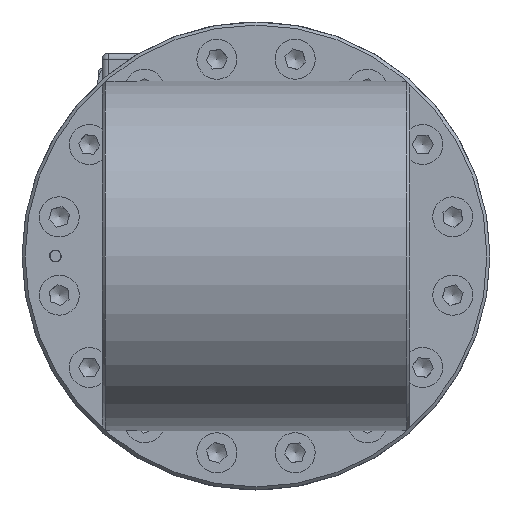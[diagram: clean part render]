
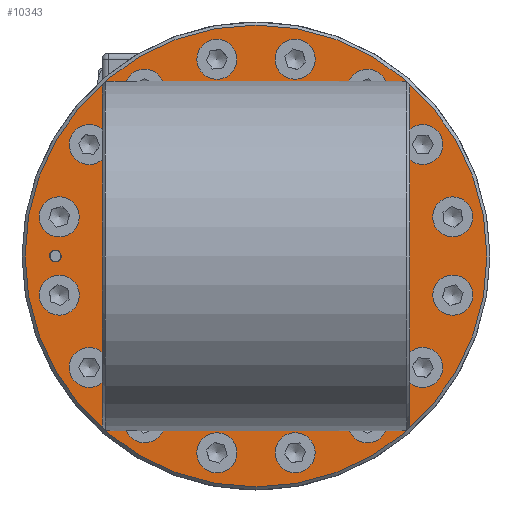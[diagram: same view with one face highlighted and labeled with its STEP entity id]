
A CAD part, left-side view. The second image highlights one B-rep face of the part: STEP entity #10343.
In plain terms, the highlighted planar face has unit normal (-1, 0, 0) as drawn and (1, 0, 0) by its records, which use the part's own axes.
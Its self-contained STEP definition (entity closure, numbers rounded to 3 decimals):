
#10343=ADVANCED_FACE('',(#11835,#11836,#11837,#11838,#11839,#11840,#11841,
#11842,#11843,#11844,#11845,#11846,#11847,#11848,#11849,#11850,#11851,#11852,
#11853),#11150,.T.);
#11150=PLANE('',#25147);
#11835=FACE_BOUND('',#13525,.T.);
#11836=FACE_BOUND('',#13526,.T.);
#11837=FACE_BOUND('',#13527,.T.);
#11838=FACE_BOUND('',#13528,.T.);
#11839=FACE_BOUND('',#13529,.T.);
#11840=FACE_BOUND('',#13530,.T.);
#11841=FACE_BOUND('',#13531,.T.);
#11842=FACE_BOUND('',#13532,.T.);
#11843=FACE_BOUND('',#13533,.T.);
#11844=FACE_BOUND('',#13534,.T.);
#11845=FACE_BOUND('',#13535,.T.);
#11846=FACE_BOUND('',#13536,.T.);
#11847=FACE_BOUND('',#13537,.T.);
#11848=FACE_BOUND('',#13538,.T.);
#11849=FACE_BOUND('',#13539,.T.);
#11850=FACE_BOUND('',#13540,.T.);
#11851=FACE_BOUND('',#13541,.T.);
#11852=FACE_BOUND('',#13542,.T.);
#11853=FACE_BOUND('',#13543,.T.);
#13525=EDGE_LOOP('',(#17782));
#13526=EDGE_LOOP('',(#17783));
#13527=EDGE_LOOP('',(#17784));
#13528=EDGE_LOOP('',(#17785));
#13529=EDGE_LOOP('',(#17786));
#13530=EDGE_LOOP('',(#17787));
#13531=EDGE_LOOP('',(#17788));
#13532=EDGE_LOOP('',(#17789));
#13533=EDGE_LOOP('',(#17790));
#13534=EDGE_LOOP('',(#17791));
#13535=EDGE_LOOP('',(#17792));
#13536=EDGE_LOOP('',(#17793));
#13537=EDGE_LOOP('',(#17794));
#13538=EDGE_LOOP('',(#17795));
#13539=EDGE_LOOP('',(#17796));
#13540=EDGE_LOOP('',(#17797));
#13541=EDGE_LOOP('',(#17798));
#13542=EDGE_LOOP('',(#17799));
#13543=EDGE_LOOP('',(#17800));
#17782=ORIENTED_EDGE('',*,*,#22292,.T.);
#17783=ORIENTED_EDGE('',*,*,#22294,.T.);
#17784=ORIENTED_EDGE('',*,*,#22296,.T.);
#17785=ORIENTED_EDGE('',*,*,#22298,.T.);
#17786=ORIENTED_EDGE('',*,*,#22300,.T.);
#17787=ORIENTED_EDGE('',*,*,#22302,.T.);
#17788=ORIENTED_EDGE('',*,*,#22304,.T.);
#17789=ORIENTED_EDGE('',*,*,#22306,.T.);
#17790=ORIENTED_EDGE('',*,*,#22308,.T.);
#17791=ORIENTED_EDGE('',*,*,#22310,.T.);
#17792=ORIENTED_EDGE('',*,*,#22312,.T.);
#17793=ORIENTED_EDGE('',*,*,#22314,.T.);
#17794=ORIENTED_EDGE('',*,*,#22316,.T.);
#17795=ORIENTED_EDGE('',*,*,#22318,.T.);
#17796=ORIENTED_EDGE('',*,*,#22320,.T.);
#17797=ORIENTED_EDGE('',*,*,#22322,.T.);
#17798=ORIENTED_EDGE('',*,*,#22324,.T.);
#17799=ORIENTED_EDGE('',*,*,#22327,.T.);
#17800=ORIENTED_EDGE('',*,*,#22325,.T.);
#20042=VERTEX_POINT('',#36942);
#20044=VERTEX_POINT('',#36947);
#20046=VERTEX_POINT('',#36952);
#20048=VERTEX_POINT('',#36957);
#20050=VERTEX_POINT('',#36962);
#20052=VERTEX_POINT('',#36967);
#20054=VERTEX_POINT('',#36972);
#20056=VERTEX_POINT('',#36977);
#20058=VERTEX_POINT('',#36982);
#20060=VERTEX_POINT('',#36987);
#20062=VERTEX_POINT('',#36992);
#20064=VERTEX_POINT('',#36997);
#20066=VERTEX_POINT('',#37002);
#20068=VERTEX_POINT('',#37007);
#20070=VERTEX_POINT('',#37012);
#20072=VERTEX_POINT('',#37017);
#20074=VERTEX_POINT('',#37022);
#20075=VERTEX_POINT('',#37025);
#20077=VERTEX_POINT('',#37030);
#22292=EDGE_CURVE('',#20042,#20042,#23370,.T.);
#22294=EDGE_CURVE('',#20044,#20044,#23372,.T.);
#22296=EDGE_CURVE('',#20046,#20046,#23374,.T.);
#22298=EDGE_CURVE('',#20048,#20048,#23376,.T.);
#22300=EDGE_CURVE('',#20050,#20050,#23378,.T.);
#22302=EDGE_CURVE('',#20052,#20052,#23380,.T.);
#22304=EDGE_CURVE('',#20054,#20054,#23382,.T.);
#22306=EDGE_CURVE('',#20056,#20056,#23384,.T.);
#22308=EDGE_CURVE('',#20058,#20058,#23386,.T.);
#22310=EDGE_CURVE('',#20060,#20060,#23388,.T.);
#22312=EDGE_CURVE('',#20062,#20062,#23390,.T.);
#22314=EDGE_CURVE('',#20064,#20064,#23392,.T.);
#22316=EDGE_CURVE('',#20066,#20066,#23394,.T.);
#22318=EDGE_CURVE('',#20068,#20068,#23396,.T.);
#22320=EDGE_CURVE('',#20070,#20070,#23398,.T.);
#22322=EDGE_CURVE('',#20072,#20072,#23400,.T.);
#22324=EDGE_CURVE('',#20074,#20074,#23402,.T.);
#22325=EDGE_CURVE('',#20075,#20075,#23403,.T.);
#22327=EDGE_CURVE('',#20077,#20077,#23405,.T.);
#23370=CIRCLE('',#25093,44.025);
#23372=CIRCLE('',#25096,4.2);
#23374=CIRCLE('',#25099,4.2);
#23376=CIRCLE('',#25102,4.2);
#23378=CIRCLE('',#25105,4.2);
#23380=CIRCLE('',#25108,4.2);
#23382=CIRCLE('',#25111,4.2);
#23384=CIRCLE('',#25114,4.2);
#23386=CIRCLE('',#25117,4.2);
#23388=CIRCLE('',#25120,4.2);
#23390=CIRCLE('',#25123,4.2);
#23392=CIRCLE('',#25126,4.2);
#23394=CIRCLE('',#25129,4.2);
#23396=CIRCLE('',#25132,4.2);
#23398=CIRCLE('',#25135,4.2);
#23400=CIRCLE('',#25138,4.2);
#23402=CIRCLE('',#25141,4.2);
#23403=CIRCLE('',#25143,75.);
#23405=CIRCLE('',#25146,1.9);
#25093=AXIS2_PLACEMENT_3D('',#36941,#29592,#29593);
#25096=AXIS2_PLACEMENT_3D('',#36946,#29598,#29599);
#25099=AXIS2_PLACEMENT_3D('',#36951,#29604,#29605);
#25102=AXIS2_PLACEMENT_3D('',#36956,#29610,#29611);
#25105=AXIS2_PLACEMENT_3D('',#36961,#29616,#29617);
#25108=AXIS2_PLACEMENT_3D('',#36966,#29622,#29623);
#25111=AXIS2_PLACEMENT_3D('',#36971,#29628,#29629);
#25114=AXIS2_PLACEMENT_3D('',#36976,#29634,#29635);
#25117=AXIS2_PLACEMENT_3D('',#36981,#29640,#29641);
#25120=AXIS2_PLACEMENT_3D('',#36986,#29646,#29647);
#25123=AXIS2_PLACEMENT_3D('',#36991,#29652,#29653);
#25126=AXIS2_PLACEMENT_3D('',#36996,#29658,#29659);
#25129=AXIS2_PLACEMENT_3D('',#37001,#29664,#29665);
#25132=AXIS2_PLACEMENT_3D('',#37006,#29670,#29671);
#25135=AXIS2_PLACEMENT_3D('',#37011,#29676,#29677);
#25138=AXIS2_PLACEMENT_3D('',#37016,#29682,#29683);
#25141=AXIS2_PLACEMENT_3D('',#37021,#29688,#29689);
#25143=AXIS2_PLACEMENT_3D('',#37024,#29692,#29693);
#25146=AXIS2_PLACEMENT_3D('',#37029,#29698,#29699);
#25147=AXIS2_PLACEMENT_3D('',#37031,#29700,#29701);
#29592=DIRECTION('',(-1.,0.,0.));
#29593=DIRECTION('',(0.,1.,0.));
#29598=DIRECTION('',(-1.,0.,0.));
#29599=DIRECTION('',(0.,0.625,-0.781));
#29604=DIRECTION('',(-1.,0.,0.));
#29605=DIRECTION('',(0.,0.279,-0.96));
#29610=DIRECTION('',(-1.,0.,0.));
#29611=DIRECTION('',(0.,-0.11,-0.994));
#29616=DIRECTION('',(-1.,0.,0.));
#29617=DIRECTION('',(0.,-0.482,-0.876));
#29622=DIRECTION('',(-1.,0.,0.));
#29623=DIRECTION('',(0.,-0.781,-0.625));
#29628=DIRECTION('',(-1.,0.,0.));
#29629=DIRECTION('',(0.,-0.96,-0.279));
#29634=DIRECTION('',(-1.,0.,0.));
#29635=DIRECTION('',(0.,-0.994,0.11));
#29640=DIRECTION('',(-1.,0.,0.));
#29641=DIRECTION('',(0.,-0.876,0.482));
#29646=DIRECTION('',(-1.,0.,0.));
#29647=DIRECTION('',(0.,-0.625,0.781));
#29652=DIRECTION('',(-1.,0.,0.));
#29653=DIRECTION('',(0.,-0.279,0.96));
#29658=DIRECTION('',(-1.,0.,0.));
#29659=DIRECTION('',(0.,0.11,0.994));
#29664=DIRECTION('',(-1.,0.,0.));
#29665=DIRECTION('',(0.,0.482,0.876));
#29670=DIRECTION('',(-1.,0.,0.));
#29671=DIRECTION('',(0.,0.781,0.625));
#29676=DIRECTION('',(-1.,0.,0.));
#29677=DIRECTION('',(0.,0.96,0.279));
#29682=DIRECTION('',(-1.,0.,0.));
#29683=DIRECTION('',(0.,0.994,-0.11));
#29688=DIRECTION('',(-1.,0.,0.));
#29689=DIRECTION('',(0.,0.876,-0.482));
#29692=DIRECTION('',(1.,0.,0.));
#29693=DIRECTION('',(0.,1.,0.));
#29698=DIRECTION('',(-1.,0.,0.));
#29699=DIRECTION('',(0.,0.875,0.484));
#29700=DIRECTION('',(1.,0.,0.));
#29701=DIRECTION('',(0.,1.,0.));
#36941=CARTESIAN_POINT('',(20.,0.,0.));
#36942=CARTESIAN_POINT('',(20.,44.025,0.));
#36946=CARTESIAN_POINT('',(20.,-12.71,63.898));
#36947=CARTESIAN_POINT('',(20.,-10.085,60.62));
#36951=CARTESIAN_POINT('',(20.,12.71,63.898));
#36952=CARTESIAN_POINT('',(20.,13.881,59.865));
#36956=CARTESIAN_POINT('',(20.,36.195,54.17));
#36957=CARTESIAN_POINT('',(20.,35.734,49.996));
#36961=CARTESIAN_POINT('',(20.,54.17,36.195));
#36962=CARTESIAN_POINT('',(20.,52.146,32.515));
#36966=CARTESIAN_POINT('',(20.,63.898,12.71));
#36967=CARTESIAN_POINT('',(20.,60.62,10.085));
#36971=CARTESIAN_POINT('',(20.,63.898,-12.71));
#36972=CARTESIAN_POINT('',(20.,59.865,-13.881));
#36976=CARTESIAN_POINT('',(20.,54.17,-36.195));
#36977=CARTESIAN_POINT('',(20.,49.996,-35.734));
#36981=CARTESIAN_POINT('',(20.,36.195,-54.17));
#36982=CARTESIAN_POINT('',(20.,32.515,-52.146));
#36986=CARTESIAN_POINT('',(20.,12.71,-63.898));
#36987=CARTESIAN_POINT('',(20.,10.085,-60.62));
#36991=CARTESIAN_POINT('',(20.,-12.71,-63.898));
#36992=CARTESIAN_POINT('',(20.,-13.881,-59.865));
#36996=CARTESIAN_POINT('',(20.,-36.195,-54.17));
#36997=CARTESIAN_POINT('',(20.,-35.734,-49.996));
#37001=CARTESIAN_POINT('',(20.,-54.17,-36.195));
#37002=CARTESIAN_POINT('',(20.,-52.146,-32.515));
#37006=CARTESIAN_POINT('',(20.,-63.898,-12.71));
#37007=CARTESIAN_POINT('',(20.,-60.62,-10.085));
#37011=CARTESIAN_POINT('',(20.,-63.898,12.71));
#37012=CARTESIAN_POINT('',(20.,-59.865,13.881));
#37016=CARTESIAN_POINT('',(20.,-54.17,36.195));
#37017=CARTESIAN_POINT('',(20.,-49.996,35.734));
#37021=CARTESIAN_POINT('',(20.,-36.195,54.17));
#37022=CARTESIAN_POINT('',(20.,-32.515,52.146));
#37024=CARTESIAN_POINT('',(20.,0.,0.));
#37025=CARTESIAN_POINT('',(20.,75.,0.));
#37029=CARTESIAN_POINT('',(20.,-65.15,0.));
#37030=CARTESIAN_POINT('',(20.,-63.487,0.919));
#37031=CARTESIAN_POINT('',(20.,-82.5,-82.5));
